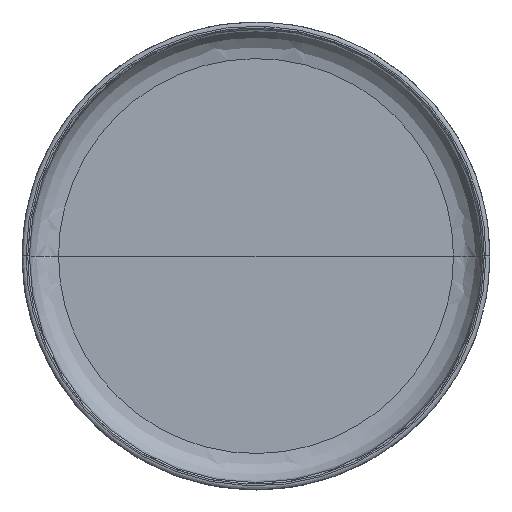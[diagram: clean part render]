
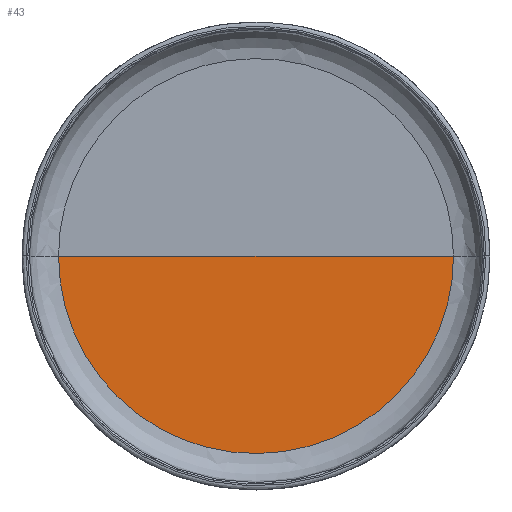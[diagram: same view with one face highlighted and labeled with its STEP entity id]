
A CAD part, top view. The second image highlights one B-rep face of the part: STEP entity #43.
In plain terms, the highlighted planar face has unit normal (0, 0, 1).
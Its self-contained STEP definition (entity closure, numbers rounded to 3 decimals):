
#43=ADVANCED_FACE('',(#98),#791,.T.);
#98=FACE_OUTER_BOUND('',#153,.T.);
#153=EDGE_LOOP('',(#289,#290));
#289=ORIENTED_EDGE('',*,*,#488,.T.);
#290=ORIENTED_EDGE('',*,*,#489,.T.);
#488=EDGE_CURVE('',#734,#733,#634,.T.);
#489=EDGE_CURVE('',#733,#734,#635,.T.);
#634=B_SPLINE_CURVE_WITH_KNOTS('',1,(#2481,#2482),.UNSPECIFIED.,.F.,.F.,
(2,2),(-1.276,0.),.UNSPECIFIED.);
#635=B_SPLINE_CURVE_WITH_KNOTS('',3,(#2483,#2484,#2485,#2486,#2487,#2488,
#2489,#2490,#2491,#2492,#2493,#2494,#2495,#2496,#2497,#2498),
 .UNSPECIFIED.,.F.,.F.,(4,1,1,1,1,1,1,1,1,1,1,1,1,4),(0.,0.077,
0.154,0.231,0.308,0.385,
0.462,0.538,0.615,0.692,
0.769,0.846,0.923,1.),.UNSPECIFIED.);
#733=VERTEX_POINT('',#2121);
#734=VERTEX_POINT('',#2122);
#791=PLANE('',#922);
#922=AXIS2_PLACEMENT_3D('',#2058,#992,$);
#992=DIRECTION('',(0.,0.,1.));
#2058=CARTESIAN_POINT('',(194.549,-194.98,492.409));
#2121=CARTESIAN_POINT('',(-194.5,0.,492.409));
#2122=CARTESIAN_POINT('',(194.5,0.,492.409));
#2481=CARTESIAN_POINT('',(194.5,0.,492.409));
#2482=CARTESIAN_POINT('',(-194.5,0.,492.409));
#2483=CARTESIAN_POINT('',(-194.5,0.,492.409));
#2484=CARTESIAN_POINT('',(-194.539,-15.677,492.409));
#2485=CARTESIAN_POINT('',(-190.677,-46.998,492.409));
#2486=CARTESIAN_POINT('',(-173.91,-91.274,492.409));
#2487=CARTESIAN_POINT('',(-147.008,-130.239,492.409));
#2488=CARTESIAN_POINT('',(-111.57,-161.636,492.409));
#2489=CARTESIAN_POINT('',(-69.645,-183.639,492.409));
#2490=CARTESIAN_POINT('',(-23.674,-194.97,492.409));
#2491=CARTESIAN_POINT('',(23.674,-194.97,492.409));
#2492=CARTESIAN_POINT('',(69.645,-183.639,492.409));
#2493=CARTESIAN_POINT('',(111.57,-161.636,492.409));
#2494=CARTESIAN_POINT('',(147.008,-130.239,492.409));
#2495=CARTESIAN_POINT('',(173.91,-91.274,492.409));
#2496=CARTESIAN_POINT('',(190.677,-46.998,492.409));
#2497=CARTESIAN_POINT('',(194.539,-15.677,492.409));
#2498=CARTESIAN_POINT('',(194.5,0.,492.409));
